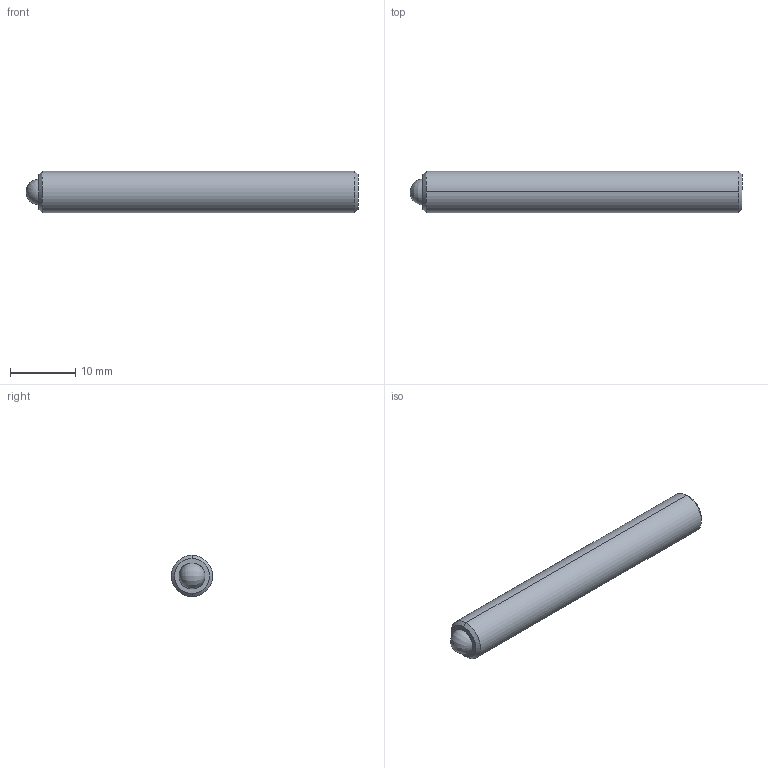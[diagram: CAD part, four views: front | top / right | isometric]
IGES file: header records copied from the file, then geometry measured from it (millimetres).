
Start section: SolidWorks IGES file using analytic representation for surfaces
Global section: file name: C:\Users\workpc\Desktop\KMA Solidworks\TS250-100 Series\TS250-100-2000.IGS; native system: SolidWorks 2013; preprocessor: SolidWorks 2013; author: workpc; date: 130211.181939; units: inch
Bounding box: 50.8 x 6.35 x 6.35 mm (x, y, z)
Surface area: 1117.7 mm2 (no closed solid volume)
Topology: 0 solids, 0 shells, 20 faces, 204 edges, 200 vertices
Faces by surface type: revolution 10, bspline 10
